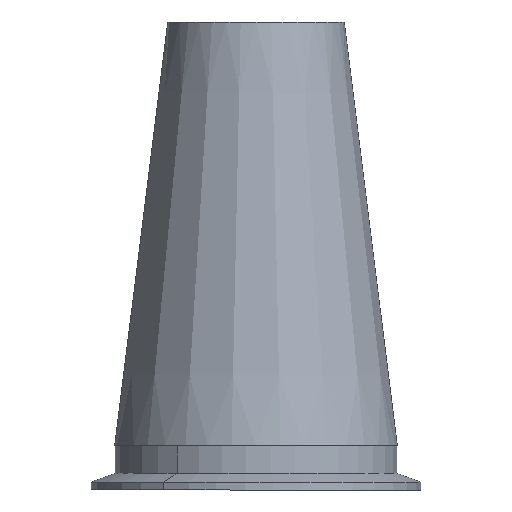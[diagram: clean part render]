
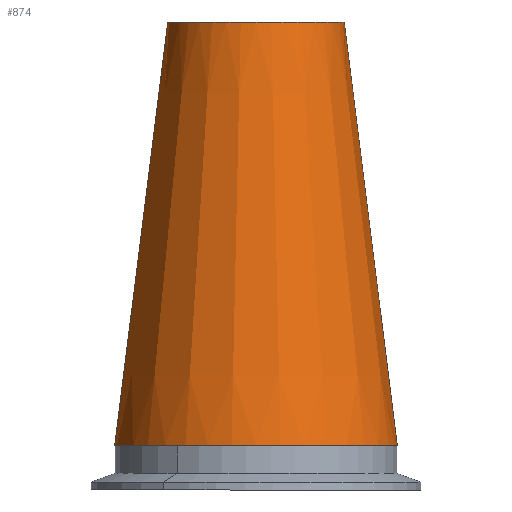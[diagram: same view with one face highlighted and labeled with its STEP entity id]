
A CAD part, front view. The second image highlights one B-rep face of the part: STEP entity #874.
In plain terms, the highlighted conical face has half-angle 7.125 degrees and reference radius 50.8 mm.
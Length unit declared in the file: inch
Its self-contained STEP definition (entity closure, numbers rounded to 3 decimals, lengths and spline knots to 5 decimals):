
#1 = EDGE_CURVE ( 'NONE', #617, #380, #320, .T. ) ;
#2 = CARTESIAN_POINT ( 'NONE',  ( 0., 0., 0. ) ) ;
#7 = CONICAL_SURFACE ( 'NONE', #172, 2., 0.124 ) ;
#37 = VERTEX_POINT ( 'NONE', #868 ) ;
#42 = EDGE_LOOP ( 'NONE', ( #325, #605, #846, #248 ) ) ;
#65 = FACE_OUTER_BOUND ( 'NONE', #42, .T. ) ;
#99 = EDGE_CURVE ( 'NONE', #37, #599, #257, .T. ) ;
#118 = DIRECTION ( 'NONE',  ( -0.124, 0., -0.992 ) ) ;
#172 = AXIS2_PLACEMENT_3D ( 'NONE', #566, #875, #880 ) ;
#177 = EDGE_CURVE ( 'NONE', #617, #37, #740, .T. ) ;
#182 = CARTESIAN_POINT ( 'NONE',  ( 2., 0., -6. ) ) ;
#217 = VECTOR ( 'NONE', #118, 39.37008 ) ;
#248 = ORIENTED_EDGE ( 'NONE', *, *, #99, .T. ) ;
#257 = CIRCLE ( 'NONE', #785, 2. ) ;
#266 = CARTESIAN_POINT ( 'NONE',  ( -2., 0., -6. ) ) ;
#304 = EDGE_CURVE ( 'NONE', #380, #599, #348, .T. ) ;
#320 = CIRCLE ( 'NONE', #517, 1.25 ) ;
#324 = CARTESIAN_POINT ( 'NONE',  ( -1.25, 0., 0. ) ) ;
#325 = ORIENTED_EDGE ( 'NONE', *, *, #304, .F. ) ;
#336 = CARTESIAN_POINT ( 'NONE',  ( 1.25, 0., 0. ) ) ;
#348 = LINE ( 'NONE', #553, #491 ) ;
#380 = VERTEX_POINT ( 'NONE', #336 ) ;
#491 = VECTOR ( 'NONE', #632, 39.37008 ) ;
#496 = DIRECTION ( 'NONE',  ( 0., 0., 1. ) ) ;
#502 = DIRECTION ( 'NONE',  ( 1., 0., 0. ) ) ;
#509 = CARTESIAN_POINT ( 'NONE',  ( 0., 0., -6. ) ) ;
#517 = AXIS2_PLACEMENT_3D ( 'NONE', #2, #733, #502 ) ;
#553 = CARTESIAN_POINT ( 'NONE',  ( 2., 0., -6. ) ) ;
#566 = CARTESIAN_POINT ( 'NONE',  ( 0., 0., -6. ) ) ;
#599 = VERTEX_POINT ( 'NONE', #182 ) ;
#605 = ORIENTED_EDGE ( 'NONE', *, *, #1, .F. ) ;
#617 = VERTEX_POINT ( 'NONE', #324 ) ;
#632 = DIRECTION ( 'NONE',  ( 0.124, 0., -0.992 ) ) ;
#657 = DIRECTION ( 'NONE',  ( 1., 0., 0. ) ) ;
#733 = DIRECTION ( 'NONE',  ( 0., 0., 1. ) ) ;
#740 = LINE ( 'NONE', #266, #217 ) ;
#785 = AXIS2_PLACEMENT_3D ( 'NONE', #509, #496, #657 ) ;
#846 = ORIENTED_EDGE ( 'NONE', *, *, #177, .T. ) ;
#868 = CARTESIAN_POINT ( 'NONE',  ( -2., 0., -6. ) ) ;
#874 = ADVANCED_FACE ( 'NONE', ( #65 ), #7, .T. ) ;
#875 = DIRECTION ( 'NONE',  ( 0., 0., -1. ) ) ;
#880 = DIRECTION ( 'NONE',  ( -1., 0., 0. ) ) ;
